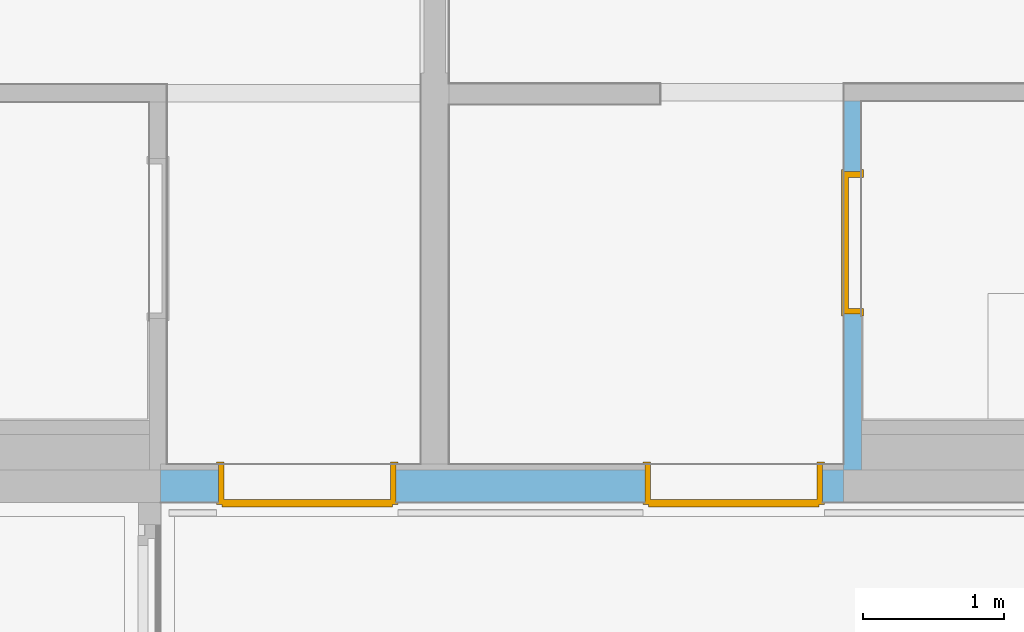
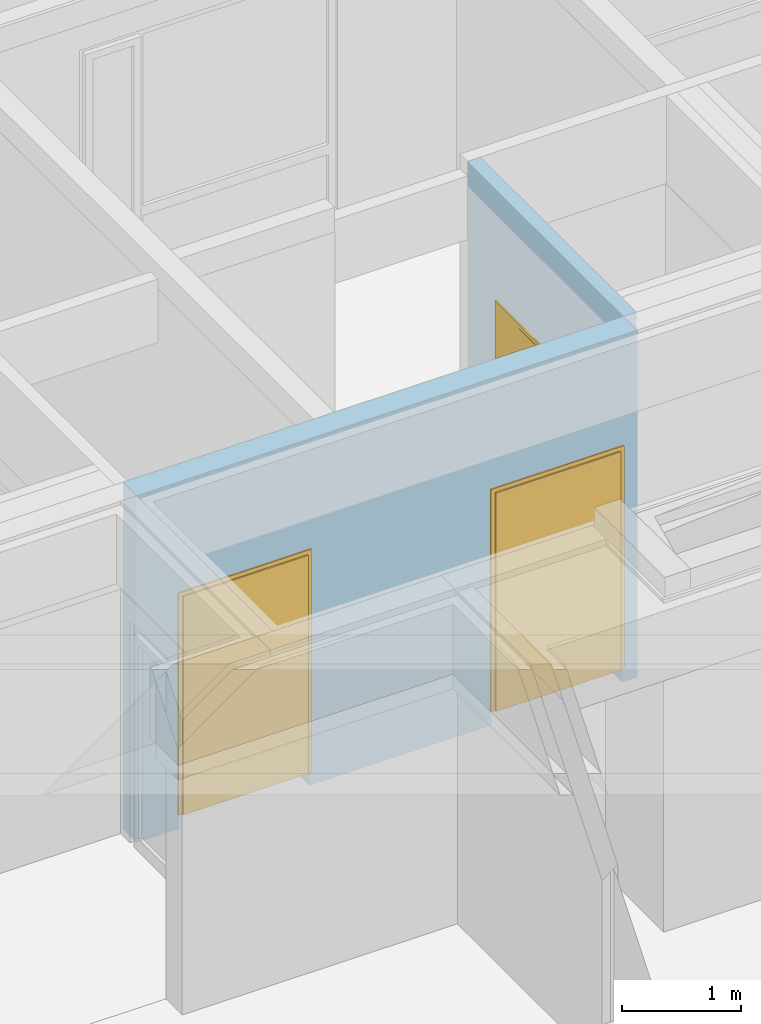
# One storey, part 140 of 222: 3 doors, 3 openings, plus 2 elements that do not belong to this part.
"""IFC4 building model written with IfcOpenShell, lengths in metres."""

import ifcopenshell
import ifcopenshell.guid

model = None  # the IFC model being written
_history = None  # IfcOwnerHistory: only IFC2X3 demands one
_inside = {}  # id of a spatial element -> (the spatial element, [elements in it])
_under = {}  # id of a project, library or spatial element -> (it, [spatial elements below it])
_declared = {}  # id of a project -> (the project, [libraries it declares])
_typed = {}  # id of a type object -> (the type object, [elements of that type])
_made_of = {}  # id of a material, layer set ... -> (it, [elements and type objects made of it])


def new_model(schema):
    """Start an empty IFC model of exactly this schema.

    Asked for "IFC4X3", IfcOpenShell would pick the latest addendum, in which some entities
    have other attributes; the version numbers below select the first issue.
    IFC2X3 requires an IfcOwnerHistory on every rooted entity: one is made here for all.
    """
    global model, _history
    if schema == "IFC4X3":
        model = ifcopenshell.file(schema_version=(4, 3, 0, 0))
    else:
        model = ifcopenshell.file(schema=schema)
    _inside.clear()
    _under.clear()
    _declared.clear()
    _typed.clear()
    _made_of.clear()
    _history = None
    if model.schema == "IFC2X3":
        org = make("IfcOrganization", Name="unknown")
        user = make(
            "IfcPersonAndOrganization",
            ThePerson=make("IfcPerson", FamilyName="unknown"),
            TheOrganization=org,
        )
        app = make(
            "IfcApplication",
            ApplicationDeveloper=org,
            Version="unknown",
            ApplicationFullName="unknown",
            ApplicationIdentifier="unknown",
        )
        _history = make(
            "IfcOwnerHistory",
            OwningUser=user,
            OwningApplication=app,
            ChangeAction="ADDED",
            CreationDate=0,
        )
    return model


def make(cls, **values):
    """One entity of the class cls with the attributes given. An attribute that is None is left unset."""
    return model.create_entity(
        cls, **{name: value for name, value in values.items() if value is not None}
    )


def entity(cls, *values):
    """Any entity or typed value of the class cls, its attributes in the order of the schema. None: left unset."""
    e = model.create_entity(cls)
    for i, value in enumerate(values):
        if value is not None:
            e[i] = value
    return e


def rooted(cls, **values):
    """An entity with a GlobalId (a new one), such as an element, a storey or a relation."""
    return make(cls, GlobalId=ifcopenshell.guid.new(), OwnerHistory=_history, **values)


def si_unit(unit_type, name, prefix=None):
    """IfcSIUnit, for example si_unit("LENGTHUNIT", "METRE", prefix="MILLI")."""
    return make("IfcSIUnit", UnitType=unit_type, Prefix=prefix, Name=name)


def converted_unit(unit_type, name, factor, base, dimensions=None, offset=None):
    """IfcConversionBasedUnit, such as the inch: factor (a typed value) times the base unit."""
    return make(
        "IfcConversionBasedUnit"
        if offset is None
        else "IfcConversionBasedUnitWithOffset",
        ConversionOffset=offset,
        Dimensions=None
        if dimensions is None
        else entity("IfcDimensionalExponents", *dimensions),
        UnitType=unit_type,
        Name=name,
        ConversionFactor=make(
            "IfcMeasureWithUnit", ValueComponent=factor, UnitComponent=base
        ),
    )


def derived_unit(unit_type, elements):
    """IfcDerivedUnit: a product of units, each with its exponent."""
    return make(
        "IfcDerivedUnit",
        Elements=[
            make("IfcDerivedUnitElement", Unit=unit, Exponent=power)
            for unit, power in elements
        ],
        UnitType=unit_type,
    )


def assignment(units):
    """IfcUnitAssignment: the units of a project."""
    return None if units is None else make("IfcUnitAssignment", Units=units)


def point(xyz):
    """IfcCartesianPoint."""
    return None if xyz is None else make("IfcCartesianPoint", Coordinates=xyz)


def direction(xyz):
    """IfcDirection."""
    return None if xyz is None else make("IfcDirection", DirectionRatios=xyz)


def frame(location, z_axis=None, x_axis=None):
    """IfcAxis2Placement3D, a coordinate frame: its origin and axes. An axis left out is left unset."""
    return make(
        "IfcAxis2Placement3D",
        Location=point(location),
        Axis=direction(z_axis),
        RefDirection=direction(x_axis),
    )


def frame_2d(location, x_axis=None):
    """IfcAxis2Placement2D, a coordinate frame in the plane: its origin and x axis."""
    return make(
        "IfcAxis2Placement2D", Location=point(location), RefDirection=direction(x_axis)
    )


def origin():
    """The frame at (0, 0, 0) with its axes left unset."""
    return frame((0.0, 0.0, 0.0))


def origin_with_axes():
    """The frame at (0, 0, 0) with the z axis (0, 0, 1) and the x axis (1, 0, 0) written out."""
    return frame((0.0, 0.0, 0.0), z_axis=(0.0, 0.0, 1.0), x_axis=(1.0, 0.0, 0.0))


def place(relative_to, where):
    """IfcLocalPlacement: puts the frame where relative to a parent placement (None: the world)."""
    return make(
        "IfcLocalPlacement", PlacementRelTo=relative_to, RelativePlacement=where
    )


def context(
    kind, dimensions, precision=None, world=None, true_north=None, identifier=None
):
    """IfcGeometricRepresentationContext, for example the 3D "Model" context."""
    return make(
        "IfcGeometricRepresentationContext",
        ContextIdentifier=identifier,
        ContextType=kind,
        CoordinateSpaceDimension=dimensions,
        Precision=precision,
        WorldCoordinateSystem=world,
        TrueNorth=true_north,
    )


def subcontext(parent, identifier, kind, view, scale=None):
    """IfcGeometricRepresentationSubContext, for example "Body" below "Model"."""
    return make(
        "IfcGeometricRepresentationSubContext",
        ContextIdentifier=identifier,
        ContextType=kind,
        ParentContext=parent,
        TargetScale=scale,
        TargetView=view,
    )


def project(units=None, contexts=None):
    """IfcProject with its units and contexts."""
    return rooted(
        "IfcProject",
        Name="project",
        RepresentationContexts=contexts,
        UnitsInContext=assignment(units),
    )


def spatial(cls, under=None, at=None, **own):
    """A site, building, storey or space (cls), placed at a placement, below another one or the project."""
    s = rooted(cls, ObjectPlacement=at, **own)
    if under is not None:
        _under.setdefault(under.id(), (under, []))[1].append(s)
    return s


def polyline(points):
    """IfcPolyline through the points."""
    return make("IfcPolyline", Points=[point(p) for p in points])


def profile(cls, at=None, kind="AREA", **sizes):
    """A parametric profile (cls). Its sizes go by their IFC names, for example OverallWidth=200.0."""
    return make(cls, ProfileType=kind, Position=at, **sizes)


def rectangle(**sizes):
    """IfcRectangleProfileDef."""
    return profile("IfcRectangleProfileDef", **sizes)


def outline(outer, holes=None, kind="AREA"):
    """IfcArbitraryClosedProfileDef: a profile drawn as a closed curve; with holes, ...WithVoids."""
    if holes is None:
        return make("IfcArbitraryClosedProfileDef", ProfileType=kind, OuterCurve=outer)
    return make(
        "IfcArbitraryProfileDefWithVoids",
        ProfileType=kind,
        OuterCurve=outer,
        InnerCurves=holes,
    )


def extrude(swept, where, along, depth):
    """IfcExtrudedAreaSolid: the profile swept, set in the frame where, extruded along a direction by depth."""
    return make(
        "IfcExtrudedAreaSolid",
        SweptArea=swept,
        Position=where,
        ExtrudedDirection=direction(along),
        Depth=depth,
    )


def faces_of(points, faces, orient=None, outer=None):
    """IfcFace entities. A face is a list of loops; a loop is a list of indices into points, from 0.

    orient and outer hold one flag for each loop. By default every Orientation is true, the
    first loop of a face is its IfcFaceOuterBound and the others are IfcFaceBound.
    """
    made = []
    for i, loops in enumerate(faces):
        bounds = []
        for j, loop in enumerate(loops):
            is_outer = j == 0 if outer is None else outer[i][j]
            bounds.append(
                make(
                    "IfcFaceOuterBound" if is_outer else "IfcFaceBound",
                    Bound=make("IfcPolyLoop", Polygon=[points[k] for k in loop]),
                    Orientation=True if orient is None else orient[i][j],
                )
            )
        made.append(make("IfcFace", Bounds=bounds))
    return made


def faceted_brep(points, faces, orient=None, outer=None, voids=None):
    """IfcFacetedBrep: a solid bounded by flat faces; with voids (closed shells), ...WithVoids."""
    shared = [point(p) for p in points]
    hull = make("IfcClosedShell", CfsFaces=faces_of(shared, faces, orient, outer))
    if voids is None:
        return make("IfcFacetedBrep", Outer=hull)
    return make(
        "IfcFacetedBrepWithVoids",
        Outer=hull,
        Voids=[
            make(cls, CfsFaces=faces_of(shared, fs, o, b)) for cls, fs, o, b in voids
        ],
    )


def shape(context_of_items, identifier, shape_type, items):
    """IfcShapeRepresentation: the items that make up one representation, for example the "Body"."""
    return make(
        "IfcShapeRepresentation",
        ContextOfItems=context_of_items,
        RepresentationIdentifier=identifier,
        RepresentationType=shape_type,
        Items=items,
    )


def source(mapping_origin, context_of_items, identifier, shape_type, items):
    """IfcRepresentationMap: a shape defined once, which mapped items show again and again."""
    return make(
        "IfcRepresentationMap",
        MappingOrigin=mapping_origin,
        MappedRepresentation=shape(context_of_items, identifier, shape_type, items),
    )


def transform(
    local_origin,
    x_axis=None,
    y_axis=None,
    z_axis=None,
    scale=None,
    scale2=None,
    scale3=None,
    uniform=True,
):
    """IfcCartesianTransformationOperator3D, or its non-uniform kind. x_axis, y_axis, z_axis: its Axis1, 2, 3."""
    if uniform:
        return make(
            "IfcCartesianTransformationOperator3D",
            Axis1=direction(x_axis),
            Axis2=direction(y_axis),
            LocalOrigin=point(local_origin),
            Scale=scale,
            Axis3=direction(z_axis),
        )
    return make(
        "IfcCartesianTransformationOperator3DnonUniform",
        Axis1=direction(x_axis),
        Axis2=direction(y_axis),
        LocalOrigin=point(local_origin),
        Scale=scale,
        Axis3=direction(z_axis),
        Scale2=scale2,
        Scale3=scale3,
    )


def mapped(mapping_source, mapping_target):
    """IfcMappedItem: shows the shape of a source again, moved by a transform."""
    return make(
        "IfcMappedItem", MappingSource=mapping_source, MappingTarget=mapping_target
    )


def material(Name=None, Category=None):
    """IfcMaterial."""
    return make("IfcMaterial", Name=Name, Category=Category)


def made_of(thing, what):
    """Note that an element or type object is made of a material, layer set ...; save() writes the relation."""
    if what is not None:
        _made_of.setdefault(what.id(), (what, []))[1].append(thing)
    return thing


def type_object(cls, material=None, **own):
    """A type object (cls), such as IfcWallType, which elements share."""
    return made_of(rooted(cls, **own), material)


def element(
    cls,
    number,
    at=None,
    inside=None,
    cuts=None,
    type_object=None,
    material=None,
    context=None,
    identifier="Body",
    shape_type=None,
    held_by="IfcProductDefinitionShape",
    body=None,
    shapes=None,
    **own,
):
    """One element of the class cls, such as IfcWall. Its Tag is "e" and its number.

    at: its placement. inside: the storey or other place that contains it. cuts: it is an
    opening in that element (IfcRelVoidsElement). A single representation is given by context,
    identifier, shape_type and body (its items); several are given by shapes. held_by: the class
    of the entity that holds the representations. save() writes the other relations.
    """
    e = rooted(cls, Tag="e%d" % number, ObjectPlacement=at, **own)
    if body is not None:
        shapes = [shape(context, identifier, shape_type, body)]
    if shapes is not None:
        e.Representation = make(held_by, Representations=shapes)
    if inside is not None:
        _inside.setdefault(inside.id(), (inside, []))[1].append(e)
    if cuts is not None:
        rooted(
            "IfcRelVoidsElement", RelatingBuildingElement=cuts, RelatedOpeningElement=e
        )
    if type_object is not None:
        _typed.setdefault(type_object.id(), (type_object, []))[1].append(e)
    return made_of(e, material)


def fill(opening, filler):
    """IfcRelFillsElement: the door or window that sits in an opening."""
    return rooted(
        "IfcRelFillsElement",
        RelatingOpeningElement=opening,
        RelatedBuildingElement=filler,
    )


def aggregate(whole, parts):
    """IfcRelAggregates: a whole, such as a stair, and the parts it consists of."""
    return rooted("IfcRelAggregates", RelatingObject=whole, RelatedObjects=parts)


def save(model, path):
    """Write the relations noted so far, then the file.

    IfcRelAggregates (storeys below a building ...), IfcRelContainedInSpatialStructure (elements
    in a storey), IfcRelDefinesByType, IfcRelAssociatesMaterial and IfcRelDeclares: one each for
    every whole, place, type object, material and project.
    """
    for whole, parts in _under.values():
        aggregate(whole, parts)
    for where, things in _inside.values():
        rooted(
            "IfcRelContainedInSpatialStructure",
            RelatedElements=things,
            RelatingStructure=where,
        )
    for kind, things in _typed.values():
        rooted("IfcRelDefinesByType", RelatedObjects=things, RelatingType=kind)
    for what, things in _made_of.values():
        rooted("IfcRelAssociatesMaterial", RelatedObjects=things, RelatingMaterial=what)
    for by, libraries in _declared.values():
        rooted("IfcRelDeclares", RelatingContext=by, RelatedDefinitions=libraries)
    model.write(path)


model = new_model("IFC4")

# Units and contexts
model_context = context("Model", 3, precision=1e-05, world=origin())
body_context = subcontext(model_context, "Body", "Model", "MODEL_VIEW")
ifc_project = project(units=[si_unit("LENGTHUNIT", "METRE"), si_unit("AREAUNIT", "SQUARE_METRE"), si_unit("VOLUMEUNIT", "CUBIC_METRE"), si_unit("MASSUNIT", "GRAM", prefix="KILO"), converted_unit("PLANEANGLEUNIT", "DEGREE", entity("IfcPlaneAngleMeasure", 0.0174532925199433), si_unit("PLANEANGLEUNIT", "RADIAN"), dimensions=[0, 0, 0, 0, 0, 0, 0]), derived_unit("THERMALTRANSMITTANCEUNIT", [(si_unit("POWERUNIT", "WATT"), 1), (si_unit("THERMODYNAMICTEMPERATUREUNIT", "KELVIN"), -1), (si_unit("LENGTHUNIT", "METRE"), -2)]), derived_unit("VOLUMETRICFLOWRATEUNIT", [(si_unit("LENGTHUNIT", "METRE"), 3), (converted_unit("TIMEUNIT", "hour", entity("IfcTimeMeasure", 3600.0), si_unit("TIMEUNIT", "SECOND"), dimensions=[0, 0, 1, 0, 0, 0, 0]), -1), (si_unit("LENGTHUNIT", "METRE"), -1)])], contexts=[model_context])

# Site, building, storey
site_placement = place(None, origin())
site = spatial("IfcSite", under=ifc_project, at=site_placement, Name="Psychiatrie Neubau Wunstorf", CompositionType="ELEMENT")
building_placement = place(site_placement, origin())
building = spatial("IfcBuilding", under=site, at=building_placement, Name="Neubau H2 Stationsgebäude", CompositionType="ELEMENT")
storey_placement = place(building_placement, frame((0.0, 0.0, 3.6)))
storey = spatial("IfcBuildingStorey", under=building, at=storey_placement, Name="H2 Ebene +1", CompositionType="ELEMENT", Elevation=3.6)

# Wall, opening, door
ifc_material_1 = material(Name="WI-LB")
wall_1_placement = place(storey_placement, frame((78.9, 27.9645, 0.0), z_axis=(0.0, 0.0, 1.0), x_axis=(0.0, -1.0, 0.0)))
wall_1 = element("IfcWall", 1, at=wall_1_placement, inside=storey, material=ifc_material_1, context=body_context, shape_type="SweptSolid", body=[
    extrude(rectangle(XDim=2.615, YDim=0.125, at=frame_2d((1.3075, 0.0625), x_axis=(1.0, 0.0))), origin_with_axes(), (0.0, 0.0, 1.0), 3.55),
])
opening_1_placement = place(wall_1_placement, frame((1.51, 0.125, 0.0), z_axis=(0.0, -1.0, 0.0), x_axis=(0.0, 0.0, 1.0)))
opening_1 = element("IfcOpeningElement", 2, at=opening_1_placement, cuts=wall_1, Name="Türöffnung", ObjectType="Opening", context=body_context, shape_type="SweptSolid", body=[
    extrude(outline(polyline([(2.41, 1.01), (2.41, 0.0), (0.0, 0.0), (0.0, 1.01), (2.41, 1.01)])), origin_with_axes(), (0.0, 0.0, 1.0), 0.125),
])
ifc_material_2 = material(Name="TI-1F-UZ-D-N")
door_type_1 = type_object("IfcDoorType", Name="SMT", OperationType="SINGLE_SWING_RIGHT", ParameterTakesPrecedence=False, PredefinedType="DOOR")
shared_shape_1 = source(origin_with_axes(), body_context, "Body", "Brep", [
    faceted_brep([(1.04999999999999, 0.0125000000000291, 0.0), (1.04999999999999, 0.112500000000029, 0.0), (1.00999999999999, 0.112500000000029, 0.0), (1.00999999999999, 0.0125000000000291, 0.0), (1.04999999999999, 0.112500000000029, 3.55), (1.04999999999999, 0.0125000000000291, 3.55), (1.00999999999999, 0.0125000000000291, 3.55), (1.00999999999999, 0.112500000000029, 3.55)], [[[0, 1, 2, 3]], [[4, 5, 6, 7]], [[1, 0, 5, 4]], [[2, 1, 4, 7]], [[3, 2, 7, 6]], [[0, 3, 6, 5]]], orient=[[False], [False], [False], [False], [False], [False]]),
    faceted_brep([(0.0, 0.0125000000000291, 0.0), (0.0, 0.112500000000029, 0.0), (-0.0400000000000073, 0.112500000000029, 0.0), (-0.0400000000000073, 0.0125000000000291, 0.0), (0.0, 0.112500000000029, 3.55), (0.0, 0.0125000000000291, 3.55), (-0.0400000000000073, 0.0125000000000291, 3.55), (-0.0400000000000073, 0.112500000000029, 3.55)], [[[0, 1, 2, 3]], [[4, 5, 6, 7]], [[1, 0, 5, 4]], [[2, 1, 4, 7]], [[3, 2, 7, 6]], [[0, 3, 6, 5]]], orient=[[False], [False], [False], [False], [False], [False]]),
    faceted_brep([(1.00999999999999, 0.0125000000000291, 2.41), (1.00999999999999, 0.112500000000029, 2.41), (0.0, 0.112500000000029, 2.41), (0.0, 0.0125000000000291, 2.41), (1.00999999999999, 0.112500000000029, 2.45), (1.00999999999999, 0.0125000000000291, 2.45), (0.0, 0.0125000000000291, 2.45), (0.0, 0.112500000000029, 2.45)], [[[0, 1, 2, 3]], [[4, 5, 6, 7]], [[1, 0, 5, 4]], [[2, 1, 4, 7]], [[3, 2, 7, 6]], [[0, 3, 6, 5]]], orient=[[False], [False], [False], [False], [False], [False]]),
])
shared_shape_2 = source(origin_with_axes(), body_context, "Body", "Brep", [
    faceted_brep([(0.0, -0.0149999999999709, 2.41), (0.0399999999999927, -0.0149999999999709, 2.41), (0.0399999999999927, -0.0149999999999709, 0.15), (0.0, -0.0149999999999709, 0.15), (0.0, 0.140000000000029, 0.15), (0.0399999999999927, 0.140000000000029, 0.15), (0.0399999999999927, 0.140000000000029, 2.41), (0.0, 0.140000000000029, 2.41)], [[[0, 1, 2, 3]], [[4, 5, 6, 7]], [[3, 4, 7, 0]], [[2, 5, 4, 3]], [[1, 6, 5, 2]], [[0, 7, 6, 1]]], orient=[[False], [False], [False], [False], [False], [False]]),
    faceted_brep([(0.0, -0.0149999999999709, 2.425), (0.0, -0.0149999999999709, 0.15), (-0.0150000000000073, -0.0149999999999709, 0.15), (-0.0150000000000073, -0.0149999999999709, 2.425), (0.0, 0.0, 0.15), (0.0, 0.0, 2.425), (-0.0150000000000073, 0.0, 2.425), (-0.0150000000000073, 0.0, 0.15)], [[[0, 1, 2, 3]], [[4, 5, 6, 7]], [[1, 0, 5, 4]], [[2, 1, 4, 7]], [[3, 2, 7, 6]], [[0, 3, 6, 5]]], orient=[[False], [False], [False], [False], [False], [False]]),
    faceted_brep([(0.0, 0.125000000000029, 2.425), (0.0, 0.125000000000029, 0.15), (-0.0150000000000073, 0.125000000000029, 0.15), (-0.0150000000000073, 0.125000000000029, 2.425), (0.0, 0.140000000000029, 0.15), (0.0, 0.140000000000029, 2.425), (-0.0150000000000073, 0.140000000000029, 2.425), (-0.0150000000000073, 0.140000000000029, 0.15)], [[[0, 1, 2, 3]], [[4, 5, 6, 7]], [[1, 0, 5, 4]], [[2, 1, 4, 7]], [[3, 2, 7, 6]], [[0, 3, 6, 5]]], orient=[[False], [False], [False], [False], [False], [False]]),
    faceted_brep([(0.969999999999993, -0.0149999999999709, 2.41), (1.00999999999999, -0.0149999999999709, 2.41), (1.00999999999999, -0.0149999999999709, 0.15), (0.969999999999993, -0.0149999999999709, 0.15), (0.969999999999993, 0.140000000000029, 0.15), (1.00999999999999, 0.140000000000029, 0.15), (1.00999999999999, 0.140000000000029, 2.41), (0.969999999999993, 0.140000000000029, 2.41)], [[[0, 1, 2, 3]], [[4, 5, 6, 7]], [[3, 4, 7, 0]], [[2, 5, 4, 3]], [[1, 6, 5, 2]], [[0, 7, 6, 1]]], orient=[[False], [False], [False], [False], [False], [False]]),
    faceted_brep([(1.00999999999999, -0.0149999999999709, 2.425), (1.02499999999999, -0.0149999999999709, 2.425), (1.02499999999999, -0.0149999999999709, 0.15), (1.00999999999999, -0.0149999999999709, 0.15), (1.00999999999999, 0.0, 0.15), (1.02499999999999, 0.0, 0.15), (1.02499999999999, 0.0, 2.425), (1.00999999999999, 0.0, 2.425)], [[[0, 1, 2, 3]], [[4, 5, 6, 7]], [[3, 4, 7, 0]], [[2, 5, 4, 3]], [[1, 6, 5, 2]], [[0, 7, 6, 1]]], orient=[[False], [False], [False], [False], [False], [False]]),
    faceted_brep([(1.00999999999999, 0.125000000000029, 2.425), (1.02499999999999, 0.125000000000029, 2.425), (1.02499999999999, 0.125000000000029, 0.15), (1.00999999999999, 0.125000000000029, 0.15), (1.00999999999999, 0.140000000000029, 0.15), (1.02499999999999, 0.140000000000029, 0.15), (1.02499999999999, 0.140000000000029, 2.425), (1.00999999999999, 0.140000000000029, 2.425)], [[[0, 1, 2, 3]], [[4, 5, 6, 7]], [[3, 4, 7, 0]], [[2, 5, 4, 3]], [[1, 6, 5, 2]], [[0, 7, 6, 1]]], orient=[[False], [False], [False], [False], [False], [False]]),
    faceted_brep([(0.0399999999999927, -0.0149999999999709, 2.41), (0.969999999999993, -0.0149999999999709, 2.41), (0.969999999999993, -0.0149999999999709, 2.37), (0.0399999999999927, -0.0149999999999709, 2.37), (0.0399999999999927, 0.140000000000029, 2.37), (0.969999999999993, 0.140000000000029, 2.37), (0.969999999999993, 0.140000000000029, 2.41), (0.0399999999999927, 0.140000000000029, 2.41)], [[[0, 1, 2, 3]], [[4, 5, 6, 7]], [[3, 4, 7, 0]], [[2, 5, 4, 3]], [[1, 6, 5, 2]], [[0, 7, 6, 1]]], orient=[[False], [False], [False], [False], [False], [False]]),
    faceted_brep([(0.0, -0.0149999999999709, 2.425), (1.00999999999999, -0.0149999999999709, 2.425), (1.00999999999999, -0.0149999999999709, 2.41), (0.0, -0.0149999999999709, 2.41), (0.0, 0.0, 2.41), (1.00999999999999, 0.0, 2.41), (1.00999999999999, 0.0, 2.425), (0.0, 0.0, 2.425)], [[[0, 1, 2, 3]], [[4, 5, 6, 7]], [[3, 4, 7, 0]], [[2, 5, 4, 3]], [[1, 6, 5, 2]], [[0, 7, 6, 1]]], orient=[[False], [False], [False], [False], [False], [False]]),
    faceted_brep([(0.0, 0.125000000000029, 2.425), (1.00999999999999, 0.125000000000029, 2.425), (1.00999999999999, 0.125000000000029, 2.41), (0.0, 0.125000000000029, 2.41), (0.0, 0.140000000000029, 2.41), (1.00999999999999, 0.140000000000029, 2.41), (1.00999999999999, 0.140000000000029, 2.425), (0.0, 0.140000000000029, 2.425)], [[[0, 1, 2, 3]], [[4, 5, 6, 7]], [[3, 4, 7, 0]], [[2, 5, 4, 3]], [[1, 6, 5, 2]], [[0, 7, 6, 1]]], orient=[[False], [False], [False], [False], [False], [False]]),
    faceted_brep([(0.0249999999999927, 0.0910000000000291, 2.385), (0.984999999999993, 0.0910000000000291, 2.385), (0.984999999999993, 0.0910000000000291, 0.15), (0.0249999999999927, 0.0910000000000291, 0.15), (0.0249999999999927, 0.141000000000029, 0.15), (0.984999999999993, 0.141000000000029, 0.15), (0.984999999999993, 0.141000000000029, 2.385), (0.0249999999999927, 0.141000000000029, 2.385)], [[[0, 1, 2, 3]], [[4, 5, 6, 7]], [[3, 4, 7, 0]], [[2, 5, 4, 3]], [[1, 6, 5, 2]], [[0, 7, 6, 1]]], orient=[[False], [False], [False], [False], [False], [False]]),
])
door_1_placement = place(opening_1_placement, frame((0.0, 0.0, 0.0), z_axis=(1.0, 0.0, 0.0), x_axis=(0.0, 1.0, 0.0)))
door_1 = element("IfcDoor", 3, at=door_1_placement, inside=storey, type_object=door_type_1, material=ifc_material_2, Name="SMT", OverallHeight=2.41, OverallWidth=1.01, context=body_context, shape_type="MappedRepresentation", body=[
    mapped(shared_shape_1, transform((0.0, 0.0, 0.0), x_axis=(1.0, 0.0, 0.0), y_axis=(0.0, 1.0, 0.0), z_axis=(0.0, 0.0, 1.0), scale=1.0)),
    mapped(shared_shape_2, transform((0.0, 0.0, 0.0), x_axis=(1.0, 0.0, 0.0), y_axis=(0.0, 1.0, 0.0), z_axis=(0.0, 0.0, 1.0), scale=1.0)),
])
fill(opening_1, door_1)

# Wall, openings, doors
ifc_material_3 = material(Name="WI-HW 60")
wall_2_placement = place(storey_placement, frame((74.055, 25.1175, 0.0), z_axis=(0.0, 0.0, 1.0), x_axis=(1.0, -7.50872818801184e-16, 0.0)))
wall_2 = element("IfcWall", 4, at=wall_2_placement, inside=storey, material=ifc_material_3, context=body_context, shape_type="SweptSolid", body=[
    extrude(rectangle(XDim=4.84499999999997, YDim=0.232, at=frame_2d((2.42249999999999, 0.116), x_axis=(1.0, 0.0))), origin_with_axes(), (0.0, 0.0, 1.0), 3.55),
])
opening_2_placement = place(wall_2_placement, frame((0.409999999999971, 0.0, 0.0), z_axis=(-7.35044209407e-16, 1.0, 0.0), x_axis=(0.0, 0.0, 1.0)))
opening_2 = element("IfcOpeningElement", 5, at=opening_2_placement, cuts=wall_2, Name="Türöffnung", ObjectType="Opening", context=body_context, shape_type="SweptSolid", body=[
    extrude(outline(polyline([(2.41, 1.26), (2.41, 0.0), (0.0, 0.0), (0.0, 1.26), (2.41, 1.26)])), origin_with_axes(), (0.0, 0.0, 1.0), 0.232),
])
opening_3_placement = place(wall_2_placement, frame((3.43499999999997, 0.0, 0.0), z_axis=(0.0, 1.0, 0.0), x_axis=(0.0, 0.0, 1.0)))
opening_3 = element("IfcOpeningElement", 6, at=opening_3_placement, cuts=wall_2, Name="Türöffnung", ObjectType="Opening", context=body_context, shape_type="SweptSolid", body=[
    extrude(outline(polyline([(2.41, 1.26), (2.41, 0.0), (0.0, 0.0), (0.0, 1.26), (2.41, 1.26)])), origin_with_axes(), (0.0, 0.0, 1.0), 0.232),
])
ifc_material_4 = material(Name="TI-2F-UZ-D")
door_type_2 = type_object("IfcDoorType", Name="SMT", OperationType="DOUBLE_DOOR_SINGLE_SWING", ParameterTakesPrecedence=False, PredefinedType="DOOR")
shared_shape_3 = source(origin_with_axes(), body_context, "Body", "Brep", [
    faceted_brep([(0.0, -0.0150000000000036, 2.41), (0.04, -0.0150000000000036, 2.41), (0.04, -0.0150000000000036, 0.15), (0.0, -0.0150000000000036, 0.15), (0.0, 0.286999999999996, 0.15), (0.04, 0.286999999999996, 0.15), (0.04, 0.286999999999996, 2.41), (0.0, 0.286999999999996, 2.41)], [[[0, 1, 2, 3]], [[4, 5, 6, 7]], [[3, 4, 7, 0]], [[2, 5, 4, 3]], [[1, 6, 5, 2]], [[0, 7, 6, 1]]], orient=[[False], [False], [False], [False], [False], [False]]),
    faceted_brep([(0.0, -0.0150000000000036, 2.425), (0.0, -0.0150000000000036, 0.15), (-0.015, -0.0150000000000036, 0.15), (-0.015, -0.0150000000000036, 2.425), (0.0, 0.0, 0.15), (0.0, 0.0, 2.425), (-0.015, 0.0, 2.425), (-0.015, 0.0, 0.15)], [[[0, 1, 2, 3]], [[4, 5, 6, 7]], [[1, 0, 5, 4]], [[2, 1, 4, 7]], [[3, 2, 7, 6]], [[0, 3, 6, 5]]], orient=[[False], [False], [False], [False], [False], [False]]),
    faceted_brep([(0.0, 0.271999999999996, 2.425), (0.0, 0.271999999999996, 0.15), (-0.015, 0.271999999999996, 0.15), (-0.015, 0.271999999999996, 2.425), (0.0, 0.286999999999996, 0.15), (0.0, 0.286999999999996, 2.425), (-0.015, 0.286999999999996, 2.425), (-0.015, 0.286999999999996, 0.15)], [[[0, 1, 2, 3]], [[4, 5, 6, 7]], [[1, 0, 5, 4]], [[2, 1, 4, 7]], [[3, 2, 7, 6]], [[0, 3, 6, 5]]], orient=[[False], [False], [False], [False], [False], [False]]),
    faceted_brep([(1.22, -0.0150000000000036, 2.41), (1.26, -0.0150000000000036, 2.41), (1.26, -0.0150000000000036, 0.15), (1.22, -0.0150000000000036, 0.15), (1.22, 0.286999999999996, 0.15), (1.26, 0.286999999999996, 0.15), (1.26, 0.286999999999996, 2.41), (1.22, 0.286999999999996, 2.41)], [[[0, 1, 2, 3]], [[4, 5, 6, 7]], [[3, 4, 7, 0]], [[2, 5, 4, 3]], [[1, 6, 5, 2]], [[0, 7, 6, 1]]], orient=[[False], [False], [False], [False], [False], [False]]),
    faceted_brep([(1.26, -0.0150000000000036, 2.425), (1.275, -0.0150000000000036, 2.425), (1.275, -0.0150000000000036, 0.15), (1.26, -0.0150000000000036, 0.15), (1.26, 0.0, 0.15), (1.275, 0.0, 0.15), (1.275, 0.0, 2.425), (1.26, 0.0, 2.425)], [[[0, 1, 2, 3]], [[4, 5, 6, 7]], [[3, 4, 7, 0]], [[2, 5, 4, 3]], [[1, 6, 5, 2]], [[0, 7, 6, 1]]], orient=[[False], [False], [False], [False], [False], [False]]),
    faceted_brep([(1.26, 0.271999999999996, 2.425), (1.275, 0.271999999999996, 2.425), (1.275, 0.271999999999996, 0.15), (1.26, 0.271999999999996, 0.15), (1.26, 0.286999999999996, 0.15), (1.275, 0.286999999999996, 0.15), (1.275, 0.286999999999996, 2.425), (1.26, 0.286999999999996, 2.425)], [[[0, 1, 2, 3]], [[4, 5, 6, 7]], [[3, 4, 7, 0]], [[2, 5, 4, 3]], [[1, 6, 5, 2]], [[0, 7, 6, 1]]], orient=[[False], [False], [False], [False], [False], [False]]),
    faceted_brep([(0.04, -0.0150000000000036, 2.41), (1.22, -0.0150000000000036, 2.41), (1.22, -0.0150000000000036, 2.37), (0.04, -0.0150000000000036, 2.37), (0.04, 0.286999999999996, 2.37), (1.22, 0.286999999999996, 2.37), (1.22, 0.286999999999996, 2.41), (0.04, 0.286999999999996, 2.41)], [[[0, 1, 2, 3]], [[4, 5, 6, 7]], [[3, 4, 7, 0]], [[2, 5, 4, 3]], [[1, 6, 5, 2]], [[0, 7, 6, 1]]], orient=[[False], [False], [False], [False], [False], [False]]),
    faceted_brep([(0.0, -0.0150000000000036, 2.425), (1.26, -0.0150000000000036, 2.425), (1.26, -0.0150000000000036, 2.41), (0.0, -0.0150000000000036, 2.41), (0.0, 0.0, 2.41), (1.26, 0.0, 2.41), (1.26, 0.0, 2.425), (0.0, 0.0, 2.425)], [[[0, 1, 2, 3]], [[4, 5, 6, 7]], [[3, 4, 7, 0]], [[2, 5, 4, 3]], [[1, 6, 5, 2]], [[0, 7, 6, 1]]], orient=[[False], [False], [False], [False], [False], [False]]),
    faceted_brep([(0.0, 0.271999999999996, 2.425), (1.26, 0.271999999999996, 2.425), (1.26, 0.271999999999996, 2.41), (0.0, 0.271999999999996, 2.41), (0.0, 0.286999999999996, 2.41), (1.26, 0.286999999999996, 2.41), (1.26, 0.286999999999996, 2.425), (0.0, 0.286999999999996, 2.425)], [[[0, 1, 2, 3]], [[4, 5, 6, 7]], [[3, 4, 7, 0]], [[2, 5, 4, 3]], [[1, 6, 5, 2]], [[0, 7, 6, 1]]], orient=[[False], [False], [False], [False], [False], [False]]),
    faceted_brep([(0.025, 0.251999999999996, 2.385), (0.925, 0.251999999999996, 2.385), (0.925, 0.251999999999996, 0.15), (0.025, 0.251999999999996, 0.15), (0.025, 0.301999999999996, 0.15), (0.925, 0.301999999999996, 0.15), (0.925, 0.301999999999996, 2.385), (0.025, 0.301999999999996, 2.385)], [[[0, 1, 2, 3]], [[4, 5, 6, 7]], [[3, 4, 7, 0]], [[2, 5, 4, 3]], [[1, 6, 5, 2]], [[0, 7, 6, 1]]], orient=[[False], [False], [False], [False], [False], [False]]),
    faceted_brep([(0.926, 0.251999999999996, 2.385), (1.235, 0.251999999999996, 2.385), (1.235, 0.251999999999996, 0.15), (0.926, 0.251999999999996, 0.15), (0.926, 0.301999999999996, 0.15), (1.235, 0.301999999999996, 0.15), (1.235, 0.301999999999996, 2.385), (0.926, 0.301999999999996, 2.385)], [[[0, 1, 2, 3]], [[4, 5, 6, 7]], [[3, 4, 7, 0]], [[2, 5, 4, 3]], [[1, 6, 5, 2]], [[0, 7, 6, 1]]], orient=[[False], [False], [False], [False], [False], [False]]),
])
door_2_placement = place(opening_2_placement, frame((0.0, 1.26, 0.271999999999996), z_axis=(1.0, 0.0, 0.0), x_axis=(0.0, -1.0, -1.58286093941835e-17)))
door_2 = element("IfcDoor", 7, at=door_2_placement, inside=storey, type_object=door_type_2, material=ifc_material_4, Name="SMT", OverallHeight=2.41, OverallWidth=1.26, context=body_context, shape_type="MappedRepresentation", body=[
    mapped(shared_shape_3, transform((0.0, 0.0, 0.0), x_axis=(1.0, 0.0, 0.0), y_axis=(0.0, 1.0, 0.0), z_axis=(0.0, 0.0, 1.0), scale=1.0)),
])
fill(opening_2, door_2)
ifc_material_5 = material(Name="TI-2F-UZ-D")
door_type_3 = type_object("IfcDoorType", Name="SMT", OperationType="DOUBLE_DOOR_SINGLE_SWING", ParameterTakesPrecedence=False, PredefinedType="DOOR")
shared_shape_4 = source(origin_with_axes(), body_context, "Body", "Brep", [
    faceted_brep([(1.26, -0.0150000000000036, 2.41), (1.26, -0.0150000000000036, 0.15), (1.22, -0.0150000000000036, 0.15), (1.22, -0.0150000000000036, 2.41), (1.26, 0.286999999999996, 0.15), (1.26, 0.286999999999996, 2.41), (1.22, 0.286999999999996, 2.41), (1.22, 0.286999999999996, 0.15)], [[[0, 1, 2, 3]], [[4, 5, 6, 7]], [[1, 0, 5, 4]], [[2, 1, 4, 7]], [[3, 2, 7, 6]], [[0, 3, 6, 5]]], orient=[[False], [False], [False], [False], [False], [False]]),
    faceted_brep([(1.26, -0.0150000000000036, 2.425), (1.275, -0.0150000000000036, 2.425), (1.275, -0.0150000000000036, 0.15), (1.26, -0.0150000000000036, 0.15), (1.26, 0.0, 0.15), (1.275, 0.0, 0.15), (1.275, 0.0, 2.425), (1.26, 0.0, 2.425)], [[[0, 1, 2, 3]], [[4, 5, 6, 7]], [[3, 4, 7, 0]], [[2, 5, 4, 3]], [[1, 6, 5, 2]], [[0, 7, 6, 1]]], orient=[[False], [False], [False], [False], [False], [False]]),
    faceted_brep([(1.26, 0.271999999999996, 2.425), (1.275, 0.271999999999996, 2.425), (1.275, 0.271999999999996, 0.15), (1.26, 0.271999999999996, 0.15), (1.26, 0.286999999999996, 0.15), (1.275, 0.286999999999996, 0.15), (1.275, 0.286999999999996, 2.425), (1.26, 0.286999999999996, 2.425)], [[[0, 1, 2, 3]], [[4, 5, 6, 7]], [[3, 4, 7, 0]], [[2, 5, 4, 3]], [[1, 6, 5, 2]], [[0, 7, 6, 1]]], orient=[[False], [False], [False], [False], [False], [False]]),
    faceted_brep([(0.04, -0.0150000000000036, 2.41), (0.04, -0.0150000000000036, 0.15), (0.0, -0.0150000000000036, 0.15), (0.0, -0.0150000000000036, 2.41), (0.04, 0.286999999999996, 0.15), (0.04, 0.286999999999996, 2.41), (0.0, 0.286999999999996, 2.41), (0.0, 0.286999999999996, 0.15)], [[[0, 1, 2, 3]], [[4, 5, 6, 7]], [[1, 0, 5, 4]], [[2, 1, 4, 7]], [[3, 2, 7, 6]], [[0, 3, 6, 5]]], orient=[[False], [False], [False], [False], [False], [False]]),
    faceted_brep([(0.0, -0.0150000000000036, 2.425), (0.0, -0.0150000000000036, 0.15), (-0.015, -0.0150000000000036, 0.15), (-0.015, -0.0150000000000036, 2.425), (0.0, 0.0, 0.15), (0.0, 0.0, 2.425), (-0.015, 0.0, 2.425), (-0.015, 0.0, 0.15)], [[[0, 1, 2, 3]], [[4, 5, 6, 7]], [[1, 0, 5, 4]], [[2, 1, 4, 7]], [[3, 2, 7, 6]], [[0, 3, 6, 5]]], orient=[[False], [False], [False], [False], [False], [False]]),
    faceted_brep([(0.0, 0.271999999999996, 2.425), (0.0, 0.271999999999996, 0.15), (-0.015, 0.271999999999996, 0.15), (-0.015, 0.271999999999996, 2.425), (0.0, 0.286999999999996, 0.15), (0.0, 0.286999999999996, 2.425), (-0.015, 0.286999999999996, 2.425), (-0.015, 0.286999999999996, 0.15)], [[[0, 1, 2, 3]], [[4, 5, 6, 7]], [[1, 0, 5, 4]], [[2, 1, 4, 7]], [[3, 2, 7, 6]], [[0, 3, 6, 5]]], orient=[[False], [False], [False], [False], [False], [False]]),
    faceted_brep([(1.22, -0.0150000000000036, 2.41), (1.22, -0.0150000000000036, 2.37), (0.04, -0.0150000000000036, 2.37), (0.04, -0.0150000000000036, 2.41), (1.22, 0.286999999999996, 2.37), (1.22, 0.286999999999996, 2.41), (0.04, 0.286999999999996, 2.41), (0.04, 0.286999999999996, 2.37)], [[[0, 1, 2, 3]], [[4, 5, 6, 7]], [[1, 0, 5, 4]], [[2, 1, 4, 7]], [[3, 2, 7, 6]], [[0, 3, 6, 5]]], orient=[[False], [False], [False], [False], [False], [False]]),
    faceted_brep([(1.26, -0.0150000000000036, 2.425), (1.26, -0.0150000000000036, 2.41), (0.0, -0.0150000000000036, 2.41), (0.0, -0.0150000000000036, 2.425), (1.26, 0.0, 2.41), (1.26, 0.0, 2.425), (0.0, 0.0, 2.425), (0.0, 0.0, 2.41)], [[[0, 1, 2, 3]], [[4, 5, 6, 7]], [[1, 0, 5, 4]], [[2, 1, 4, 7]], [[3, 2, 7, 6]], [[0, 3, 6, 5]]], orient=[[False], [False], [False], [False], [False], [False]]),
    faceted_brep([(1.26, 0.271999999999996, 2.425), (1.26, 0.271999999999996, 2.41), (0.0, 0.271999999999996, 2.41), (0.0, 0.271999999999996, 2.425), (1.26, 0.286999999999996, 2.41), (1.26, 0.286999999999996, 2.425), (0.0, 0.286999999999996, 2.425), (0.0, 0.286999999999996, 2.41)], [[[0, 1, 2, 3]], [[4, 5, 6, 7]], [[1, 0, 5, 4]], [[2, 1, 4, 7]], [[3, 2, 7, 6]], [[0, 3, 6, 5]]], orient=[[False], [False], [False], [False], [False], [False]]),
    faceted_brep([(1.235, 0.251999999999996, 2.385), (1.235, 0.251999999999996, 0.15), (0.335, 0.251999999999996, 0.15), (0.335, 0.251999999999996, 2.385), (1.235, 0.301999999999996, 0.15), (1.235, 0.301999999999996, 2.385), (0.335, 0.301999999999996, 2.385), (0.335, 0.301999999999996, 0.15)], [[[0, 1, 2, 3]], [[4, 5, 6, 7]], [[1, 0, 5, 4]], [[2, 1, 4, 7]], [[3, 2, 7, 6]], [[0, 3, 6, 5]]], orient=[[False], [False], [False], [False], [False], [False]]),
    faceted_brep([(0.334, 0.251999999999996, 2.385), (0.334, 0.251999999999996, 0.15), (0.025, 0.251999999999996, 0.15), (0.025, 0.251999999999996, 2.385), (0.334, 0.301999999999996, 0.15), (0.334, 0.301999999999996, 2.385), (0.025, 0.301999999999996, 2.385), (0.025, 0.301999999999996, 0.15)], [[[0, 1, 2, 3]], [[4, 5, 6, 7]], [[1, 0, 5, 4]], [[2, 1, 4, 7]], [[3, 2, 7, 6]], [[0, 3, 6, 5]]], orient=[[False], [False], [False], [False], [False], [False]]),
])
door_3_placement = place(opening_3_placement, frame((0.0, 1.26, 0.271999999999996), z_axis=(1.0, 0.0, 0.0), x_axis=(0.0, -1.0, -7.50872818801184e-16)))
door_3 = element("IfcDoor", 8, at=door_3_placement, inside=storey, type_object=door_type_3, material=ifc_material_5, Name="SMT", OverallHeight=2.41, OverallWidth=1.26, context=body_context, shape_type="MappedRepresentation", body=[
    mapped(shared_shape_4, transform((0.0, 0.0, 0.0), x_axis=(1.0, 0.0, 0.0), y_axis=(0.0, 1.0, 0.0), z_axis=(0.0, 0.0, 1.0), scale=1.0)),
])
fill(opening_3, door_3)

save(model, "model.ifc")
